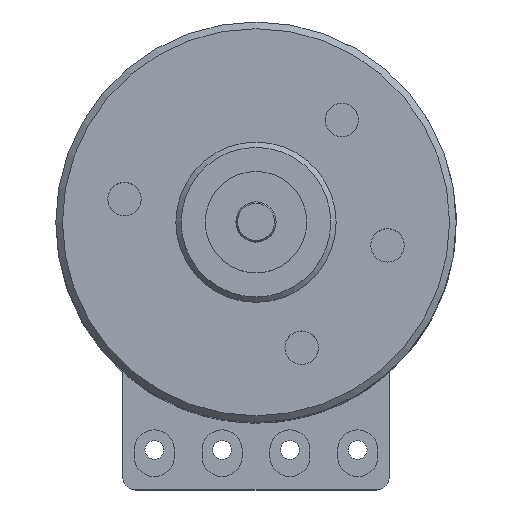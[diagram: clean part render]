
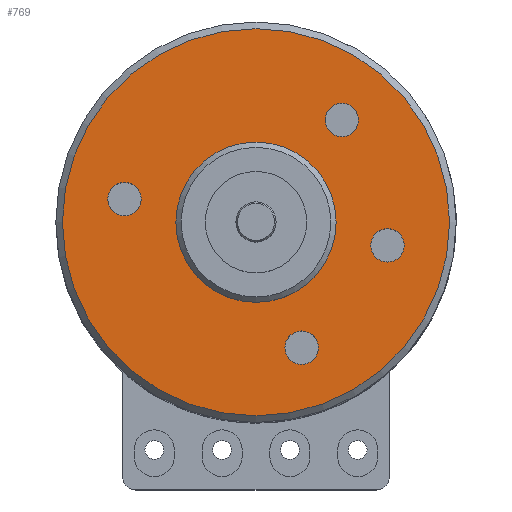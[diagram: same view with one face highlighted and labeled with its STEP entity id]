
A CAD part, top view. The second image highlights one B-rep face of the part: STEP entity #769.
In plain terms, the highlighted planar face has unit normal (0, 0, 1).
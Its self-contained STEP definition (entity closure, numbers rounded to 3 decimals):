
#639=FACE_BOUND('',#1198,.T.);
#640=FACE_BOUND('',#1199,.T.);
#641=FACE_BOUND('',#1200,.T.);
#642=FACE_BOUND('',#1201,.T.);
#643=FACE_BOUND('',#1202,.T.);
#644=FACE_BOUND('',#1203,.T.);
#769=ADVANCED_FACE('',(#639,#640,#641,#642,#643,#644),#950,.T.);
#950=PLANE('',#3305);
#1198=EDGE_LOOP('',(#1780));
#1199=EDGE_LOOP('',(#1781));
#1200=EDGE_LOOP('',(#1782));
#1201=EDGE_LOOP('',(#1783));
#1202=EDGE_LOOP('',(#1784));
#1203=EDGE_LOOP('',(#1785));
#1780=ORIENTED_EDGE('',*,*,#2818,.F.);
#1781=ORIENTED_EDGE('',*,*,#2819,.T.);
#1782=ORIENTED_EDGE('',*,*,#2820,.T.);
#1783=ORIENTED_EDGE('',*,*,#2821,.T.);
#1784=ORIENTED_EDGE('',*,*,#2822,.T.);
#1785=ORIENTED_EDGE('',*,*,#2823,.T.);
#2545=VERTEX_POINT('',#4251);
#2546=VERTEX_POINT('',#4253);
#2547=VERTEX_POINT('',#4255);
#2548=VERTEX_POINT('',#4257);
#2549=VERTEX_POINT('',#4259);
#2550=VERTEX_POINT('',#4261);
#2818=EDGE_CURVE('',#2545,#2545,#3200,.T.);
#2819=EDGE_CURVE('',#2546,#2546,#3201,.T.);
#2820=EDGE_CURVE('',#2547,#2547,#3202,.T.);
#2821=EDGE_CURVE('',#2548,#2548,#3203,.T.);
#2822=EDGE_CURVE('',#2549,#2549,#3204,.T.);
#2823=EDGE_CURVE('',#2550,#2550,#3205,.T.);
#3200=CIRCLE('',#3299,3.);
#3201=CIRCLE('',#3300,0.625);
#3202=CIRCLE('',#3301,0.625);
#3203=CIRCLE('',#3302,0.625);
#3204=CIRCLE('',#3303,0.625);
#3205=CIRCLE('',#3304,7.25);
#3299=AXIS2_PLACEMENT_3D('',#4250,#3571,#3572);
#3300=AXIS2_PLACEMENT_3D('',#4252,#3573,#3574);
#3301=AXIS2_PLACEMENT_3D('',#4254,#3575,#3576);
#3302=AXIS2_PLACEMENT_3D('',#4256,#3577,#3578);
#3303=AXIS2_PLACEMENT_3D('',#4258,#3579,#3580);
#3304=AXIS2_PLACEMENT_3D('',#4260,#3581,#3582);
#3305=AXIS2_PLACEMENT_3D('',#4262,#3583,#3584);
#3571=DIRECTION('',(0.,0.,1.));
#3572=DIRECTION('',(1.,0.,0.));
#3573=DIRECTION('',(0.,0.,-1.));
#3574=DIRECTION('',(-1.,0.,0.));
#3575=DIRECTION('',(0.,0.,-1.));
#3576=DIRECTION('',(-1.,0.,0.));
#3577=DIRECTION('',(0.,0.,-1.));
#3578=DIRECTION('',(-1.,0.,0.));
#3579=DIRECTION('',(0.,0.,-1.));
#3580=DIRECTION('',(-1.,0.,0.));
#3581=DIRECTION('',(0.,0.,1.));
#3582=DIRECTION('',(1.,0.,0.));
#3583=DIRECTION('',(0.,0.,1.));
#3584=DIRECTION('',(1.,0.,0.));
#4250=CARTESIAN_POINT('',(0.,0.,0.));
#4251=CARTESIAN_POINT('',(3.,0.,0.));
#4252=CARTESIAN_POINT('',(4.924,-0.868,0.));
#4253=CARTESIAN_POINT('',(4.299,-0.868,0.));
#4254=CARTESIAN_POINT('',(3.214,3.83,0.));
#4255=CARTESIAN_POINT('',(2.589,3.83,0.));
#4256=CARTESIAN_POINT('',(1.71,-4.698,0.));
#4257=CARTESIAN_POINT('',(1.085,-4.698,0.));
#4258=CARTESIAN_POINT('',(-4.924,0.868,0.));
#4259=CARTESIAN_POINT('',(-5.549,0.868,0.));
#4260=CARTESIAN_POINT('',(0.,0.,0.));
#4261=CARTESIAN_POINT('',(7.25,0.,0.));
#4262=CARTESIAN_POINT('',(7.5,0.,0.));
